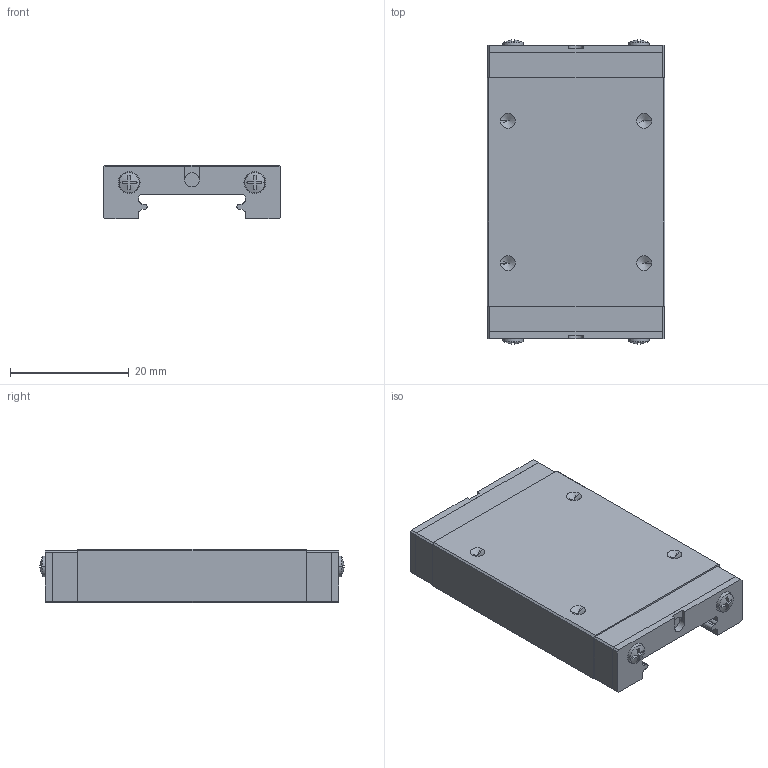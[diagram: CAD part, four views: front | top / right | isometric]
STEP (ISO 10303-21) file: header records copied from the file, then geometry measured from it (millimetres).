
FILE_DESCRIPTION(('no description'),'unknown implementation level');
FILE_NAME('MGW09H_ZF_H_M_SS_52.stp',' ',('HIWIN GmbH'),('CADClick - KiM GmbH - www.kimweb.de'),'unknown preprocess','ACIS','unknown authorization');
FILE_SCHEMA(('automotive_design'));
Length unit declared in the file: millimetre
Products named in the file (1): MGW09H ZF H M SS
Bounding box: 30 x 51.3 x 9.1 mm (x, y, z)
Volume: 9859.3 mm3; surface area: 4963.3 mm2
Topology: 1 solids, 3 shells, 194 faces, 528 edges, 344 vertices
Faces by surface type: plane 130, cylinder 36, cone 28
Entity records: 11864 total; most frequent: CARTESIAN_POINT 1171, STYLED_ITEM 1059, PRESENTATION_STYLE_ASSIGNMENT 1059, COLOUR_RGB 1059, ORIENTED_EDGE 1040, DIRECTION 954, EDGE_CURVE 520, CURVE_STYLE 520
